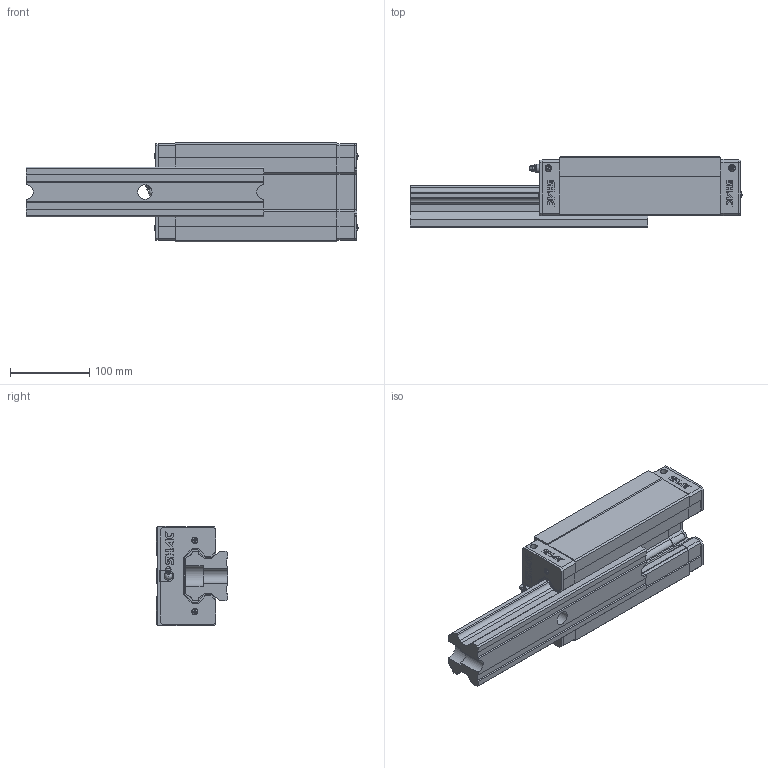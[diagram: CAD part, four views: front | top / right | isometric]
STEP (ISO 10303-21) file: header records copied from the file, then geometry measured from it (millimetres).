
FILE_DESCRIPTION( ( 'STEP AP214' ), '1' );
FILE_NAME( 'F:/品牌/SHAC 台湾鼎翰传动科技有限公司/3D滑块/GHH65HA1R300Z0C-0_0_1_1_.stp', '2025-04-21T22:45:15', ( 'License CC BY-ND 4.0' ), ( 'CADENAS' ), ' ', 'PARTsolutions', ' ' );
FILE_SCHEMA( ( 'AUTOMOTIVE_DESIGN { 1 0 10303 214 1 1 1 1 }' ) );
Length unit declared in the file: millimetre
Products named in the file (8): GHH65HA1R300Z0C-0/0(1_1); _GHR65R300C+RC-0/0(1)_RAIL; _GHH65HA_SLIDER; _GHH65HA_C; _GHH65HA_P; _GH65_SCREW; _GH65_BOLT; _GH65-_G
Assembly tree (12 placements, depth 2):
  GHH65HA1R300Z0C-0/0(1_1)
    _GHR65R300C+RC-0/0(1)_RAIL
    _GHH65HA_SLIDER
    _GHH65HA_C  x2
    _GHH65HA_P  x2
    _GH65_SCREW  x4
    _GH65_BOLT
    _GH65-_G
Bounding box: 418.66 x 90 x 126 mm (x, y, z)
Volume: 2619131.1 mm3; surface area: 279293.3 mm2
Topology: 12 solids, 12 shells, 798 faces, 2132 edges, 1407 vertices
Faces by surface type: plane 648, cylinder 109, cone 26, torus 9, sphere 5, bspline 1
Full cylindrical faces by diameter (mm): 0.992 x4, 4.5 x1, 4.7 x4, 7.35 x2, 7.76 x4, 8 x4, 8.5 x4, 10 x2, 10.5 x2, 13.835 x4, 18 x1, 26 x1
Entity records: 18965 total; most frequent: CARTESIAN_POINT 2798, ORIENTED_EDGE 2500, DIRECTION 2412, EDGE_CURVE 1250, LINE 1030, VECTOR 1030, VERTEX_POINT 849, AXIS2_PLACEMENT_3D 691
